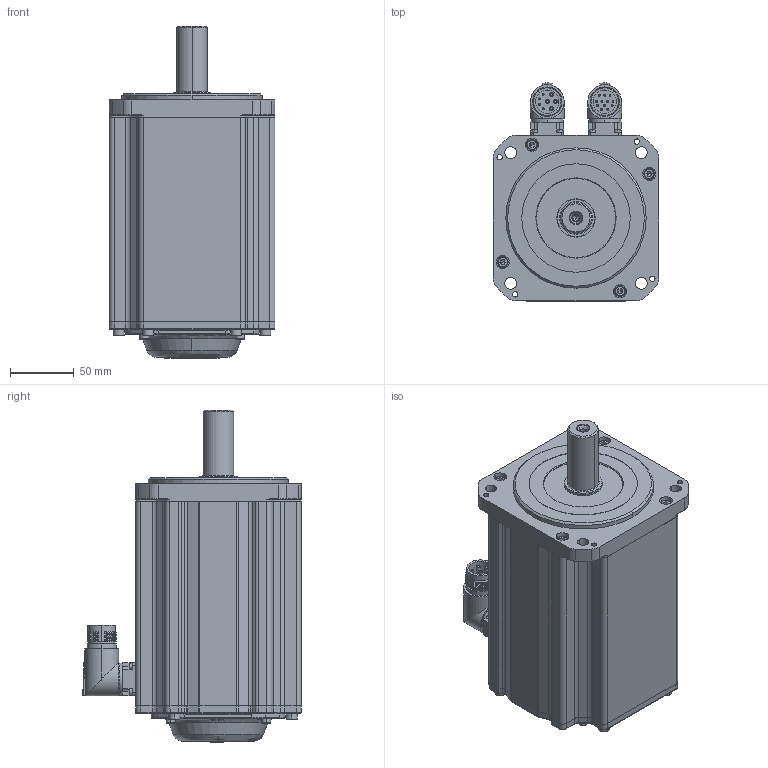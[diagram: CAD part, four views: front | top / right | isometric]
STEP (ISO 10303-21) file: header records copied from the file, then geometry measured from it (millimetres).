
FILE_DESCRIPTION (( 'STEP AP203' ), '1' );
FILE_NAME ('MC20-130-3M20-N202-1¡õPL-NNNN.STEP', '2025-07-29T15:05:33', ( '' ), ( '' ), 'SwSTEP 2.0', 'SolidWorks 2014', '' );
FILE_SCHEMA (( 'CONFIG_CONTROL_DESIGN' ));
Length unit declared in the file: millimetre
Products named in the file (1): MC20-130-3M20-N202-1¡õPL-NNNN
Bounding box: 130 x 171.35 x 260.3 mm (x, y, z)
Volume: 2955982.7 mm3; surface area: 289530.5 mm2
Topology: 28 solids, 28 shells, 2022 faces, 4794 edges, 2857 vertices
Faces by surface type: plane 733, cylinder 567, cone 358, bspline 204, torus 148, sphere 12
Entity records: 62107 total; most frequent: CARTESIAN_POINT 16808, DIRECTION 9523, ORIENTED_EDGE 9364, EDGE_CURVE 4682, AXIS2_PLACEMENT_3D 3694, VERTEX_POINT 2857, EDGE_LOOP 2269, VECTOR 2135
